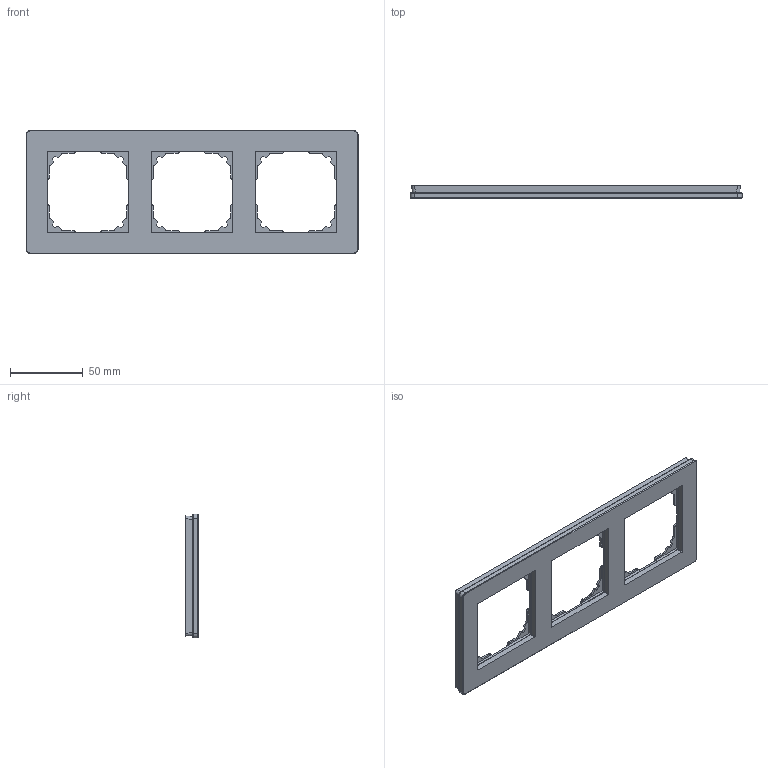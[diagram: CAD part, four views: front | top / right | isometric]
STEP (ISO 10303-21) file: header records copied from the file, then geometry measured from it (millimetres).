
FILE_DESCRIPTION(/* description */ ('','CAx-IF Rec.Pracs.---Representation and Presentation of Product Manufacturing Information (PMI)---4.0---2014-10-13'),/* implementation_level */ '2;1');
FILE_NAME(/* name */ 'FG-03.step',/* time_stamp */ '2025-02-23T19:15:59+01:00',/* author */ (''),/* organization */ (''),/* preprocessor_version */ 'ST-DEVELOPER v20',/* originating_system */ 'Autodesk Translation Framework v13.20.0.188',/* authorisation */ '');
FILE_SCHEMA (('AP242_MANAGED_MODEL_BASED_3D_ENGINEERING_MIM_LF { 1 0 10303 442 1 1 4 }'));
Length unit declared in the file: millimetre
Products named in the file (6): zestawienie ramek; ramka _3WIZUALIZACJA; PODSTAWA RAMKI SZKLANEJ 1; logo sinum-tech; RS-3_001; FARBA RAMKA 3
Assembly tree (5 placements, depth 3):
  zestawienie ramek
    ramka _3WIZUALIZACJA
      PODSTAWA RAMKI SZKLANEJ 1
      logo sinum-tech
      RS-3_001
      FARBA RAMKA 3
Bounding box: 227.8 x 8.6 x 85 mm (x, y, z)
Volume: 63829.9 mm3; surface area: 71530.5 mm2
Topology: 20 solids, 20 shells, 1095 faces, 2898 edges, 1868 vertices
Faces by surface type: plane 560, bspline 229, cylinder 214, cone 56, sphere 36
Full cylindrical faces by diameter (mm): 0.437 x1
Entity records: 37778 total; most frequent: CARTESIAN_POINT 11526, ORIENTED_EDGE 5796, DIRECTION 4766, EDGE_CURVE 2898, LINE 1912, VECTOR 1912, VERTEX_POINT 1868, AXIS2_PLACEMENT_3D 1427
